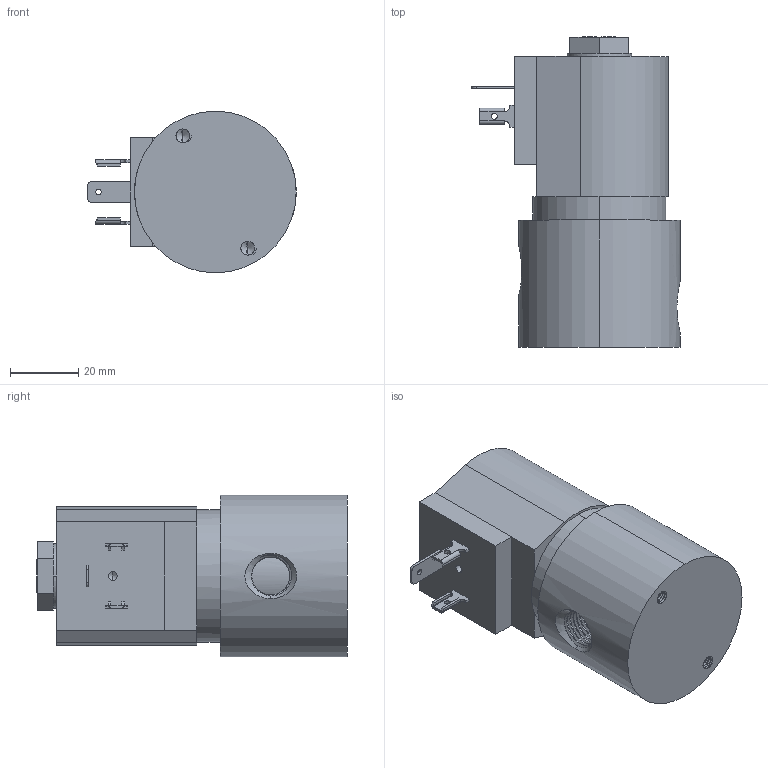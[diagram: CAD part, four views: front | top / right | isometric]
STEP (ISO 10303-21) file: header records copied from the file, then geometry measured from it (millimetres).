
FILE_DESCRIPTION (( 'STEP AP203' ), '1' );
FILE_NAME ('S401Y_B.STEP', '2023-09-14T14:30:33', ( '' ), ( '' ), 'SwSTEP 2.0', 'SolidWorks 2023', '' );
FILE_SCHEMA (( 'CONFIG_CONTROL_DESIGN' ));
Length unit declared in the file: inch
Products named in the file (1): S401Y_B
Bounding box: 61.14 x 91.21 x 47.45 mm (x, y, z)
Volume: 134231.2 mm3; surface area: 19310.9 mm2
Topology: 1 solids, 1 shells, 248 faces, 673 edges, 434 vertices
Faces by surface type: cylinder 130, plane 80, bspline 25, cone 13
Entity records: 19007 total; most frequent: CARTESIAN_POINT 13457, ORIENTED_EDGE 1334, DIRECTION 943, EDGE_CURVE 667, VERTEX_POINT 434, AXIS2_PLACEMENT_3D 323, LINE 297, VECTOR 297
